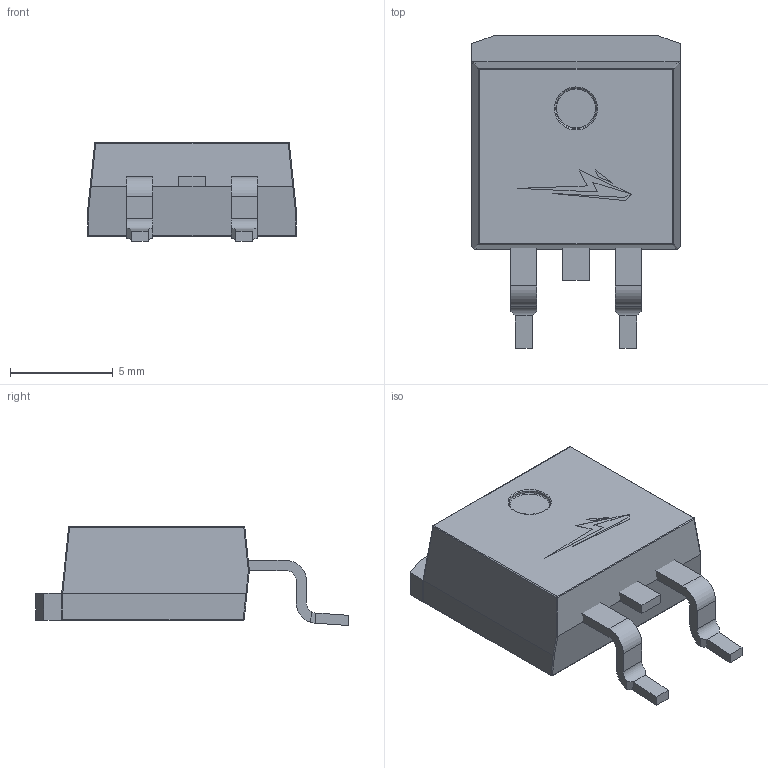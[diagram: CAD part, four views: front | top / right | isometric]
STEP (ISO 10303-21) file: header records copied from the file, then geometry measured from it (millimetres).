
FILE_DESCRIPTION(/* description */ (''),/* implementation_level */ '2;1');
FILE_NAME(/* name */ 'H:\_UPVERTER\Upverter 3D models\Wolfspeed\Diodes\C3D10060G\Wolfspeed C3D10060G - TO-263-2.stp',/* time_stamp */ '2021-11-02T21:30:41-04:00',/* author */ ('rabri'),/* organization */ (''),/* preprocessor_version */ 'ST-DEVELOPER v18',/* originating_system */ 'Autodesk Inventor 2020',/* authorisation */ '');
FILE_SCHEMA (('AUTOMOTIVE_DESIGN { 1 0 10303 214 3 1 1 }'));
Length unit declared in the file: millimetre
Products named in the file (5): Wolfspeed C3M0032120J1 - D2PAK 7; body; terminal; heatsink; logo
Assembly tree (4 placements, depth 2):
  Wolfspeed C3M0032120J1 - D2PAK 7
    body
    terminal
    heatsink
    logo
Bounding box: 10.16 x 15.24 x 4.82 mm (x, y, z)
Volume: 430 mm3; surface area: 614.9 mm2
Topology: 7 solids, 7 shells, 127 faces, 298 edges, 186 vertices
Faces by surface type: plane 84, cylinder 33, sphere 8, torus 2
Full cylindrical faces by diameter (mm): 2 x1
Entity records: 3836 total; most frequent: CARTESIAN_POINT 666, DIRECTION 638, ORIENTED_EDGE 596, EDGE_CURVE 298, LINE 222, VECTOR 222, AXIS2_PLACEMENT_3D 208, VERTEX_POINT 186
